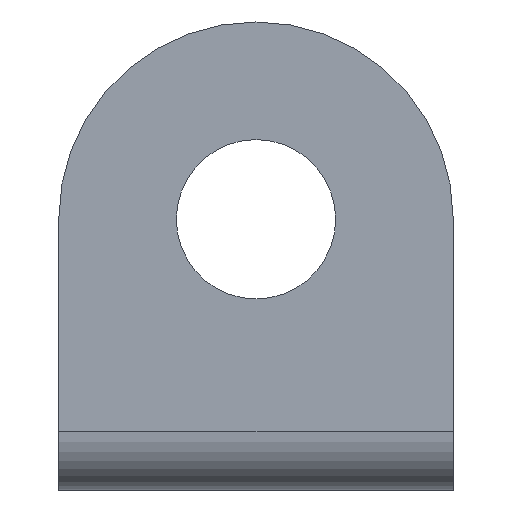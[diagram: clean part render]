
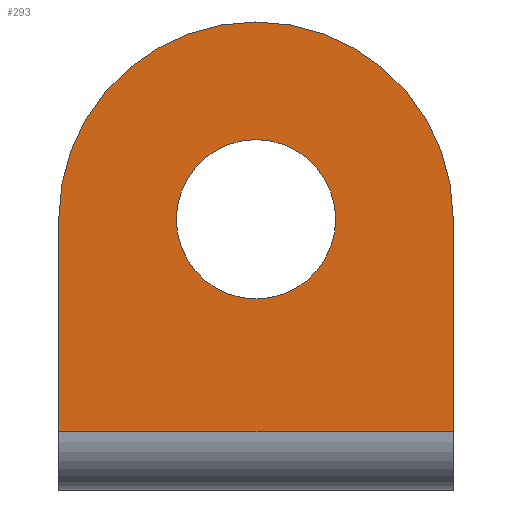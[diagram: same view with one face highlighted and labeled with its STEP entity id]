
A CAD part, front view. The second image highlights one B-rep face of the part: STEP entity #293.
In plain terms, the highlighted planar face has unit normal (0, -1, 0).
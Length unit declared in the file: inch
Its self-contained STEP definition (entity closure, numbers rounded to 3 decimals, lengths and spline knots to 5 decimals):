
#20 = DIRECTION ( 'NONE',  ( 0., 0., -1. ) ) ;
#64 = EDGE_LOOP ( 'NONE', ( #557, #558, #873, #158, #760 ) ) ;
#72 = DIRECTION ( 'NONE',  ( 0., 0., 1. ) ) ;
#112 = LINE ( 'NONE', #524, #838 ) ;
#140 = CARTESIAN_POINT ( 'NONE',  ( 0.8125, 0., 1.115 ) ) ;
#143 = EDGE_CURVE ( 'NONE', #501, #249, #179, .T. ) ;
#144 = AXIS2_PLACEMENT_3D ( 'NONE', #235, #430, #786 ) ;
#158 = ORIENTED_EDGE ( 'NONE', *, *, #863, .T. ) ;
#179 = CIRCLE ( 'NONE', #772, 0.32812 ) ;
#195 = PLANE ( 'NONE',  #420 ) ;
#201 = VERTEX_POINT ( 'NONE', #314 ) ;
#202 = CARTESIAN_POINT ( 'NONE',  ( 0.8125, 0., 1.44312 ) ) ;
#219 = CARTESIAN_POINT ( 'NONE',  ( 1.625, 0., 2. ) ) ;
#235 = CARTESIAN_POINT ( 'NONE',  ( 0.8125, 0., 1.115 ) ) ;
#249 = VERTEX_POINT ( 'NONE', #202 ) ;
#250 = EDGE_CURVE ( 'NONE', #836, #347, #481, .T. ) ;
#264 = DIRECTION ( 'NONE',  ( 0., 1., 0. ) ) ;
#270 = CARTESIAN_POINT ( 'NONE',  ( 0.8125, 0., 0.78688 ) ) ;
#293 = ADVANCED_FACE ( 'NONE', ( #554, #887 ), #195, .F. ) ;
#314 = CARTESIAN_POINT ( 'NONE',  ( 0., 0., 1.115 ) ) ;
#346 = ORIENTED_EDGE ( 'NONE', *, *, #735, .T. ) ;
#347 = VERTEX_POINT ( 'NONE', #646 ) ;
#370 = CARTESIAN_POINT ( 'NONE',  ( 0.8125, 0., 1.115 ) ) ;
#404 = DIRECTION ( 'NONE',  ( 0., 1., 0. ) ) ;
#409 = DIRECTION ( 'NONE',  ( 0., 0., 1. ) ) ;
#420 = AXIS2_PLACEMENT_3D ( 'NONE', #219, #264, #492 ) ;
#422 = AXIS2_PLACEMENT_3D ( 'NONE', #140, #404, #409 ) ;
#430 = DIRECTION ( 'NONE',  ( 0., -1., 0. ) ) ;
#438 = VECTOR ( 'NONE', #20, 39.37008 ) ;
#452 = CIRCLE ( 'NONE', #572, 0.8125 ) ;
#464 = DIRECTION ( 'NONE',  ( -1., 0., 0. ) ) ;
#478 = CARTESIAN_POINT ( 'NONE',  ( 0.8125, 0., 1.9275 ) ) ;
#481 = LINE ( 'NONE', #814, #553 ) ;
#492 = DIRECTION ( 'NONE',  ( 0., 0., 1. ) ) ;
#501 = VERTEX_POINT ( 'NONE', #270 ) ;
#519 = VERTEX_POINT ( 'NONE', #478 ) ;
#520 = CIRCLE ( 'NONE', #144, 0.8125 ) ;
#524 = CARTESIAN_POINT ( 'NONE',  ( 1.625, 0., 0.24 ) ) ;
#553 = VECTOR ( 'NONE', #687, 39.37008 ) ;
#554 = FACE_BOUND ( 'NONE', #695, .T. ) ;
#557 = ORIENTED_EDGE ( 'NONE', *, *, #250, .F. ) ;
#558 = ORIENTED_EDGE ( 'NONE', *, *, #692, .T. ) ;
#572 = AXIS2_PLACEMENT_3D ( 'NONE', #688, #678, #72 ) ;
#636 = LINE ( 'NONE', #642, #438 ) ;
#637 = EDGE_CURVE ( 'NONE', #347, #727, #112, .T. ) ;
#642 = CARTESIAN_POINT ( 'NONE',  ( 0., 0., 2. ) ) ;
#646 = CARTESIAN_POINT ( 'NONE',  ( 1.625, 0., 0.24 ) ) ;
#647 = DIRECTION ( 'NONE',  ( 0., 1., 0. ) ) ;
#671 = CARTESIAN_POINT ( 'NONE',  ( 1.625, 0., 1.115 ) ) ;
#678 = DIRECTION ( 'NONE',  ( 0., -1., 0. ) ) ;
#687 = DIRECTION ( 'NONE',  ( 0., 0., -1. ) ) ;
#688 = CARTESIAN_POINT ( 'NONE',  ( 0.8125, 0., 1.115 ) ) ;
#692 = EDGE_CURVE ( 'NONE', #836, #519, #452, .T. ) ;
#695 = EDGE_LOOP ( 'NONE', ( #346, #724 ) ) ;
#724 = ORIENTED_EDGE ( 'NONE', *, *, #143, .T. ) ;
#727 = VERTEX_POINT ( 'NONE', #882 ) ;
#735 = EDGE_CURVE ( 'NONE', #249, #501, #774, .T. ) ;
#760 = ORIENTED_EDGE ( 'NONE', *, *, #637, .F. ) ;
#772 = AXIS2_PLACEMENT_3D ( 'NONE', #370, #647, #853 ) ;
#774 = CIRCLE ( 'NONE', #422, 0.32812 ) ;
#786 = DIRECTION ( 'NONE',  ( 0., 0., 1. ) ) ;
#814 = CARTESIAN_POINT ( 'NONE',  ( 1.625, 0., 2. ) ) ;
#836 = VERTEX_POINT ( 'NONE', #671 ) ;
#838 = VECTOR ( 'NONE', #464, 39.37008 ) ;
#853 = DIRECTION ( 'NONE',  ( 0., 0., 1. ) ) ;
#863 = EDGE_CURVE ( 'NONE', #201, #727, #636, .T. ) ;
#873 = ORIENTED_EDGE ( 'NONE', *, *, #889, .T. ) ;
#882 = CARTESIAN_POINT ( 'NONE',  ( 0., 0., 0.24 ) ) ;
#887 = FACE_OUTER_BOUND ( 'NONE', #64, .T. ) ;
#889 = EDGE_CURVE ( 'NONE', #519, #201, #520, .T. ) ;
